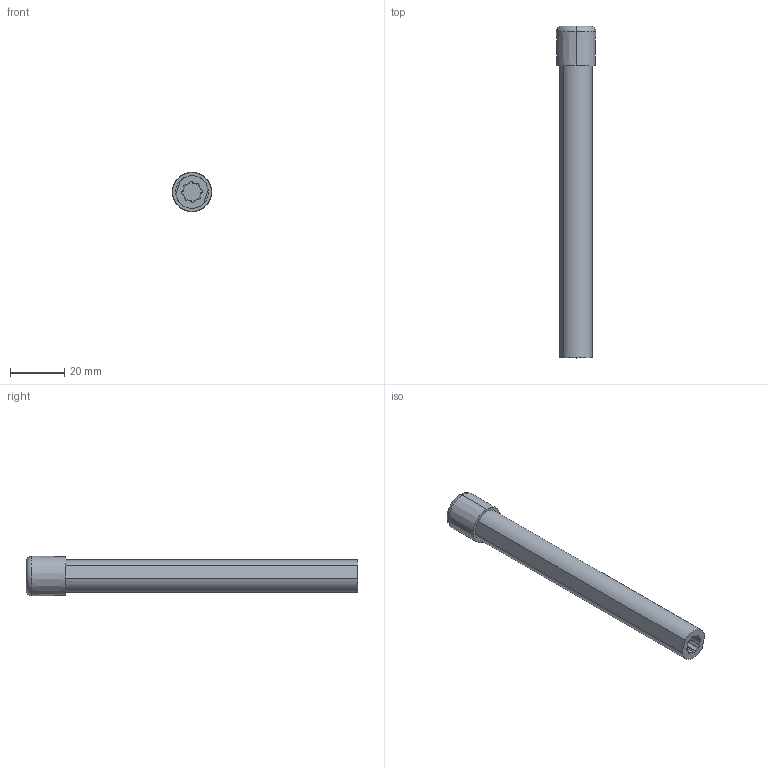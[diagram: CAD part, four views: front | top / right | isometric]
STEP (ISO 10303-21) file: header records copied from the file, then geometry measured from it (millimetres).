
FILE_DESCRIPTION (( 'STEP AP214' ), '1' );
FILE_NAME ('AF12-8 120CC.step', '2017-04-05T07:35:52', ( '' ), ( '' ), 'SwSTEP 2.0', 'SolidWorks 2015', '' );
FILE_SCHEMA (( 'AUTOMOTIVE_DESIGN' ));
Length unit declared in the file: millimetre
Products named in the file (1): AF12-8 120CC
Bounding box: 14.56 x 122.3 x 14.56 mm (x, y, z)
Volume: 9453.4 mm3; surface area: 9366 mm2
Topology: 2 solids, 2 shells, 67 faces, 183 edges, 121 vertices
Faces by surface type: cylinder 31, plane 23, cone 11, torus 2
Entity records: 2944 total; most frequent: CARTESIAN_POINT 420, DIRECTION 374, ORIENTED_EDGE 366, EDGE_CURVE 183, AXIS2_PLACEMENT_3D 139, VERTEX_POINT 121, VECTOR 96, LINE 96
